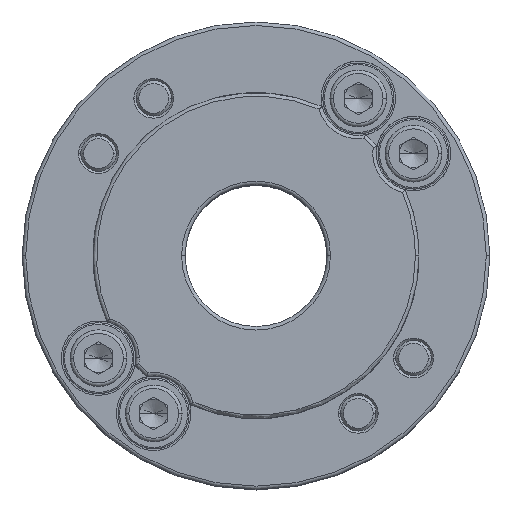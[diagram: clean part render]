
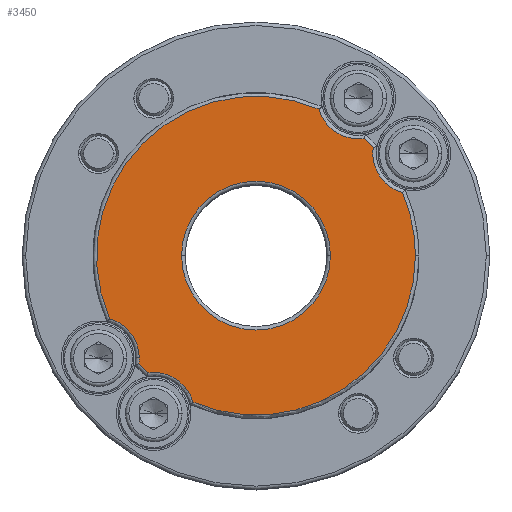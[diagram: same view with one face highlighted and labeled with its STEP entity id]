
A CAD part, top view. The second image highlights one B-rep face of the part: STEP entity #3450.
In plain terms, the highlighted planar face has unit normal (0, 0, 1).
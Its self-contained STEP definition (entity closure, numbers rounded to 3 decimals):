
#163 = DIRECTION ( 'NONE',  ( 0., 0., 1. ) ) ;
#164 = CARTESIAN_POINT ( 'NONE',  ( 0., 0., 24.5 ) ) ;
#165 = AXIS2_PLACEMENT_3D ( 'NONE', #164, #163, #217 ) ;
#166 = CIRCLE ( 'NONE', #165, 22.5 ) ;
#167 = CARTESIAN_POINT ( 'NONE',  ( 16.535, 15.26, 24.5 ) ) ;
#168 = CARTESIAN_POINT ( 'NONE',  ( 20.666, 8.898, 24.5 ) ) ;
#169 = DIRECTION ( 'NONE',  ( 1., 0., 0. ) ) ;
#170 = DIRECTION ( 'NONE',  ( 0., 0., -1. ) ) ;
#171 = CARTESIAN_POINT ( 'NONE',  ( 22.225, 14.433, 24.5 ) ) ;
#172 = AXIS2_PLACEMENT_3D ( 'NONE', #171, #170, #169 ) ;
#173 = CIRCLE ( 'NONE', #172, 5.75 ) ;
#197 = FACE_OUTER_BOUND ( 'NONE', #3454, .T. ) ;
#199 = DIRECTION ( 'NONE',  ( 1., 0., 0. ) ) ;
#200 = DIRECTION ( 'NONE',  ( 0., 0., -1. ) ) ;
#201 = CARTESIAN_POINT ( 'NONE',  ( -22.225, -14.433, 24.5 ) ) ;
#202 = AXIS2_PLACEMENT_3D ( 'NONE', #201, #200, #199 ) ;
#203 = CIRCLE ( 'NONE', #202, 5.75 ) ;
#204 = CARTESIAN_POINT ( 'NONE',  ( -20.666, -8.898, 24.5 ) ) ;
#205 = DIRECTION ( 'NONE',  ( 1., 0., 0. ) ) ;
#206 = DIRECTION ( 'NONE',  ( 0., 0., 1. ) ) ;
#207 = CARTESIAN_POINT ( 'NONE',  ( 0., 0., 24.5 ) ) ;
#208 = AXIS2_PLACEMENT_3D ( 'NONE', #207, #206, #205 ) ;
#209 = CIRCLE ( 'NONE', #208, 22.5 ) ;
#210 = CARTESIAN_POINT ( 'NONE',  ( 8.898, 20.666, 24.5 ) ) ;
#211 = DIRECTION ( 'NONE',  ( 1., 0., 0. ) ) ;
#212 = DIRECTION ( 'NONE',  ( 0., 0., -1. ) ) ;
#213 = CARTESIAN_POINT ( 'NONE',  ( 14.433, 22.225, 24.5 ) ) ;
#214 = AXIS2_PLACEMENT_3D ( 'NONE', #213, #212, #211 ) ;
#215 = CIRCLE ( 'NONE', #214, 5.75 ) ;
#216 = CARTESIAN_POINT ( 'NONE',  ( 15.26, 16.535, 24.5 ) ) ;
#217 = DIRECTION ( 'NONE',  ( 1., 0., 0. ) ) ;
#218 = CARTESIAN_POINT ( 'NONE',  ( 0., -72.741, 24.5 ) ) ;
#219 = PLANE ( 'NONE',  #248 ) ;
#220 = CARTESIAN_POINT ( 'NONE',  ( 0., 0., 24.5 ) ) ;
#243 = AXIS2_PLACEMENT_3D ( 'NONE', #220, #5398, #5393 ) ;
#244 = CIRCLE ( 'NONE', #243, 10.5 ) ;
#246 = DIRECTION ( 'NONE',  ( 1., 0., 0. ) ) ;
#247 = DIRECTION ( 'NONE',  ( 0., 0., 1. ) ) ;
#248 = AXIS2_PLACEMENT_3D ( 'NONE', #218, #247, #246 ) ;
#249 = FACE_BOUND ( 'NONE', #3451, .T. ) ;
#320 = CARTESIAN_POINT ( 'NONE',  ( -15.26, -16.535, 24.5 ) ) ;
#321 = DIRECTION ( 'NONE',  ( 1., 0., 0. ) ) ;
#322 = DIRECTION ( 'NONE',  ( 0., 0., 1. ) ) ;
#323 = CARTESIAN_POINT ( 'NONE',  ( 0., 0., 24.5 ) ) ;
#324 = AXIS2_PLACEMENT_3D ( 'NONE', #323, #322, #321 ) ;
#325 = CIRCLE ( 'NONE', #324, 22.5 ) ;
#379 = DIRECTION ( 'NONE',  ( 1., 0., 0. ) ) ;
#380 = DIRECTION ( 'NONE',  ( 0., 0., 1. ) ) ;
#381 = CARTESIAN_POINT ( 'NONE',  ( 0., 0., 24.5 ) ) ;
#382 = AXIS2_PLACEMENT_3D ( 'NONE', #381, #380, #379 ) ;
#383 = CIRCLE ( 'NONE', #382, 22.5 ) ;
#384 = DIRECTION ( 'NONE',  ( 1., 0., 0. ) ) ;
#385 = DIRECTION ( 'NONE',  ( 0., 0., -1. ) ) ;
#386 = CARTESIAN_POINT ( 'NONE',  ( -14.433, -22.225, 24.5 ) ) ;
#387 = AXIS2_PLACEMENT_3D ( 'NONE', #386, #385, #384 ) ;
#388 = CIRCLE ( 'NONE', #387, 5.75 ) ;
#3145 = EDGE_CURVE ( 'NONE', #3146, #3147, #5822, .T. ) ;
#3146 = VERTEX_POINT ( 'NONE', #5818 ) ;
#3147 = VERTEX_POINT ( 'NONE', #5817 ) ;
#3152 = VERTEX_POINT ( 'NONE', #5864 ) ;
#3154 = EDGE_CURVE ( 'NONE', #3155, #3152, #5863, .T. ) ;
#3155 = VERTEX_POINT ( 'NONE', #5858 ) ;
#3161 = EDGE_CURVE ( 'NONE', #3162, #3163, #5844, .T. ) ;
#3162 = VERTEX_POINT ( 'NONE', #5839 ) ;
#3163 = VERTEX_POINT ( 'NONE', #5838 ) ;
#3427 = ORIENTED_EDGE ( 'NONE', *, *, #3428, .T. ) ;
#3428 = EDGE_CURVE ( 'NONE', #3429, #3430, #173, .T. ) ;
#3429 = VERTEX_POINT ( 'NONE', #168 ) ;
#3430 = VERTEX_POINT ( 'NONE', #167 ) ;
#3431 = ORIENTED_EDGE ( 'NONE', *, *, #3432, .T. ) ;
#3432 = EDGE_CURVE ( 'NONE', #3430, #3433, #166, .T. ) ;
#3433 = VERTEX_POINT ( 'NONE', #216 ) ;
#3434 = ORIENTED_EDGE ( 'NONE', *, *, #3435, .T. ) ;
#3435 = EDGE_CURVE ( 'NONE', #3433, #3436, #215, .T. ) ;
#3436 = VERTEX_POINT ( 'NONE', #210 ) ;
#3437 = ORIENTED_EDGE ( 'NONE', *, *, #3438, .T. ) ;
#3438 = EDGE_CURVE ( 'NONE', #3436, #3439, #209, .T. ) ;
#3439 = VERTEX_POINT ( 'NONE', #204 ) ;
#3440 = ORIENTED_EDGE ( 'NONE', *, *, #3441, .T. ) ;
#3441 = EDGE_CURVE ( 'NONE', #3439, #3162, #203, .T. ) ;
#3450 = ADVANCED_FACE ( 'NONE', ( #249, #197 ), #219, .T. ) ;
#3451 = EDGE_LOOP ( 'NONE', ( #3452, #3509 ) ) ;
#3452 = ORIENTED_EDGE ( 'NONE', *, *, #3453, .T. ) ;
#3453 = EDGE_CURVE ( 'NONE', #3147, #3146, #244, .T. ) ;
#3454 = EDGE_LOOP ( 'NONE', ( #3427, #3431, #3434, #3437, #3440, #3497, #3498, #3501, #3503, #3504 ) ) ;
#3497 = ORIENTED_EDGE ( 'NONE', *, *, #3161, .T. ) ;
#3498 = ORIENTED_EDGE ( 'NONE', *, *, #3499, .T. ) ;
#3499 = EDGE_CURVE ( 'NONE', #3163, #3500, #325, .T. ) ;
#3500 = VERTEX_POINT ( 'NONE', #320 ) ;
#3501 = ORIENTED_EDGE ( 'NONE', *, *, #3502, .T. ) ;
#3502 = EDGE_CURVE ( 'NONE', #3500, #3155, #388, .T. ) ;
#3503 = ORIENTED_EDGE ( 'NONE', *, *, #3154, .T. ) ;
#3504 = ORIENTED_EDGE ( 'NONE', *, *, #3505, .T. ) ;
#3505 = EDGE_CURVE ( 'NONE', #3152, #3429, #383, .T. ) ;
#3509 = ORIENTED_EDGE ( 'NONE', *, *, #3145, .T. ) ;
#5393 = DIRECTION ( 'NONE',  ( 1., 0., 0. ) ) ;
#5398 = DIRECTION ( 'NONE',  ( 0., 0., -1. ) ) ;
#5817 = CARTESIAN_POINT ( 'NONE',  ( 10.5, 0., 24.5 ) ) ;
#5818 = CARTESIAN_POINT ( 'NONE',  ( -10.5, 0., 24.5 ) ) ;
#5819 = DIRECTION ( 'NONE',  ( 1., 0., 0. ) ) ;
#5820 = DIRECTION ( 'NONE',  ( 0., 0., -1. ) ) ;
#5821 = AXIS2_PLACEMENT_3D ( 'NONE', #5825, #5820, #5819 ) ;
#5822 = CIRCLE ( 'NONE', #5821, 10.5 ) ;
#5825 = CARTESIAN_POINT ( 'NONE',  ( 0., 0., 24.5 ) ) ;
#5838 = CARTESIAN_POINT ( 'NONE',  ( -16.535, -15.26, 24.5 ) ) ;
#5839 = CARTESIAN_POINT ( 'NONE',  ( -16.475, -14.433, 24.5 ) ) ;
#5840 = DIRECTION ( 'NONE',  ( 1., 0., 0. ) ) ;
#5841 = DIRECTION ( 'NONE',  ( 0., 0., -1. ) ) ;
#5842 = CARTESIAN_POINT ( 'NONE',  ( -22.225, -14.433, 24.5 ) ) ;
#5843 = AXIS2_PLACEMENT_3D ( 'NONE', #5842, #5841, #5840 ) ;
#5844 = CIRCLE ( 'NONE', #5843, 5.75 ) ;
#5858 = CARTESIAN_POINT ( 'NONE',  ( -8.898, -20.666, 24.5 ) ) ;
#5859 = DIRECTION ( 'NONE',  ( 1., 0., 0. ) ) ;
#5860 = DIRECTION ( 'NONE',  ( 0., 0., 1. ) ) ;
#5861 = CARTESIAN_POINT ( 'NONE',  ( 0., 0., 24.5 ) ) ;
#5862 = AXIS2_PLACEMENT_3D ( 'NONE', #5861, #5860, #5859 ) ;
#5863 = CIRCLE ( 'NONE', #5862, 22.5 ) ;
#5864 = CARTESIAN_POINT ( 'NONE',  ( 22.5, 0., 24.5 ) ) ;
